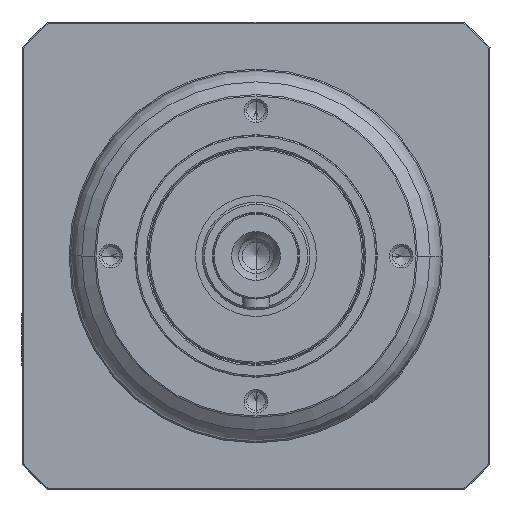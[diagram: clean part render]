
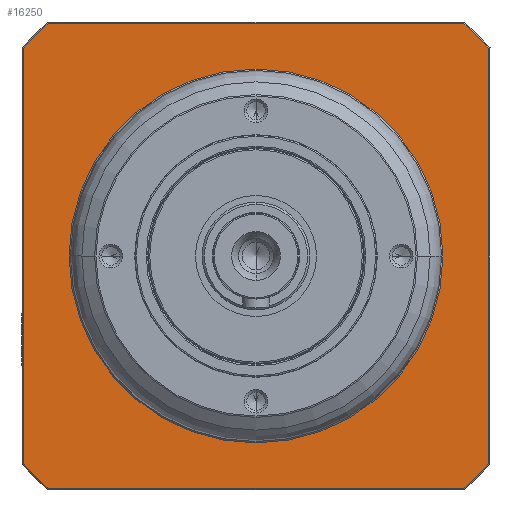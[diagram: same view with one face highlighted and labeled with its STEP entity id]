
A CAD part, left-side view. The second image highlights one B-rep face of the part: STEP entity #16250.
In plain terms, the highlighted planar face has unit normal (-1, 0, 0) as drawn and (0, 0, -1) by its records, which use the part's own axes.
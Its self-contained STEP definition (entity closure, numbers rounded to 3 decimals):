
#15136=CARTESIAN_POINT('',(0.,0.,
2.5));
#15137=DIRECTION('',(0.,0.,-1.));
#15138=DIRECTION('',(0.,-1.,0.));
#15139=AXIS2_PLACEMENT_3D('',#15136,#15137,#15138);
#15141=CARTESIAN_POINT('',(0.,0.,
2.5));
#15142=DIRECTION('',(0.,0.,-1.));
#15143=DIRECTION('',(0.,1.,0.));
#15144=AXIS2_PLACEMENT_3D('',#15141,#15142,#15143);
#15146=CARTESIAN_POINT('',(0.,0.,2.5));
#15147=DIRECTION('',(0.,0.,1.));
#15148=DIRECTION('',(-0.746,-0.666,0.));
#15149=AXIS2_PLACEMENT_3D('',#15146,#15147,#15148);
#15151=DIRECTION('',(1.,0.,0.));
#15152=VECTOR('',#15151,154.58);
#15153=CARTESIAN_POINT('',(-77.29,-86.5,
2.5));
#15154=LINE('',#15153,#15152);
#15155=CARTESIAN_POINT('',(0.,0.,2.5));
#15156=DIRECTION('',(0.,0.,1.));
#15157=DIRECTION('',(0.666,-0.746,0.));
#15158=AXIS2_PLACEMENT_3D('',#15155,#15156,#15157);
#15160=DIRECTION('',(0.,1.,0.));
#15161=VECTOR('',#15160,154.58);
#15162=CARTESIAN_POINT('',(86.5,-77.29,
2.5));
#15163=LINE('',#15162,#15161);
#15164=CARTESIAN_POINT('',(0.,0.,2.5));
#15165=DIRECTION('',(0.,0.,1.));
#15166=DIRECTION('',(0.746,0.666,0.));
#15167=AXIS2_PLACEMENT_3D('',#15164,#15165,#15166);
#15169=DIRECTION('',(-1.,0.,0.));
#15170=VECTOR('',#15169,154.58);
#15171=CARTESIAN_POINT('',(77.29,86.5,2.5));
#15172=LINE('',#15171,#15170);
#15173=CARTESIAN_POINT('',(0.,0.,2.5));
#15174=DIRECTION('',(0.,0.,1.));
#15175=DIRECTION('',(-0.666,0.746,0.));
#15176=AXIS2_PLACEMENT_3D('',#15173,#15174,#15175);
#15178=DIRECTION('',(0.,-1.,0.));
#15179=VECTOR('',#15178,154.58);
#15180=CARTESIAN_POINT('',(-86.5,77.29,
2.5));
#15181=LINE('',#15180,#15179);
#15899=CARTESIAN_POINT('',(0.,-69.5,2.5));
#15900=CARTESIAN_POINT('',(0.,69.5,
2.5));
#15901=VERTEX_POINT('',#15899);
#15902=VERTEX_POINT('',#15900);
#16003=CARTESIAN_POINT('',(-86.5,-77.29,2.5));
#16004=CARTESIAN_POINT('',(-77.29,-86.5,2.5));
#16005=VERTEX_POINT('',#16003);
#16006=VERTEX_POINT('',#16004);
#16011=CARTESIAN_POINT('',(77.29,-86.5,
2.5));
#16012=VERTEX_POINT('',#16011);
#16015=CARTESIAN_POINT('',(86.5,-77.29,2.5));
#16016=VERTEX_POINT('',#16015);
#16019=CARTESIAN_POINT('',(86.5,77.29,2.5));
#16020=VERTEX_POINT('',#16019);
#16023=CARTESIAN_POINT('',(77.29,86.5,2.5));
#16024=VERTEX_POINT('',#16023);
#16027=CARTESIAN_POINT('',(-77.29,86.5,
2.5));
#16028=VERTEX_POINT('',#16027);
#16033=CARTESIAN_POINT('',(-86.5,77.29,2.5));
#16034=VERTEX_POINT('',#16033);
#16222=CARTESIAN_POINT('',(0.,0.,2.5));
#16223=DIRECTION('',(0.,0.,1.));
#16224=DIRECTION('',(0.,1.,0.));
#16225=AXIS2_PLACEMENT_3D('',#16222,#16223,#16224);
#16226=PLANE('',#16225);
#16228=ORIENTED_EDGE('',*,*,#16227,.T.);
#16230=ORIENTED_EDGE('',*,*,#16229,.T.);
#16232=ORIENTED_EDGE('',*,*,#16231,.T.);
#16234=ORIENTED_EDGE('',*,*,#16233,.T.);
#16236=ORIENTED_EDGE('',*,*,#16235,.T.);
#16238=ORIENTED_EDGE('',*,*,#16237,.T.);
#16240=ORIENTED_EDGE('',*,*,#16239,.T.);
#16242=ORIENTED_EDGE('',*,*,#16241,.T.);
#16243=EDGE_LOOP('',(#16228,#16230,#16232,#16234,#16236,#16238,#16240,#16242));
#16244=FACE_OUTER_BOUND('',#16243,.F.);
#16246=ORIENTED_EDGE('',*,*,#16245,.T.);
#16247=ORIENTED_EDGE('',*,*,#16212,.T.);
#16248=EDGE_LOOP('',(#16246,#16247));
#16249=FACE_BOUND('',#16248,.F.);
#16250=ADVANCED_FACE('',(#16244,#16249),#16226,.F.);
#15140=CIRCLE('',#15139,69.5);
#15145=CIRCLE('',#15144,69.5);
#15150=CIRCLE('',#15149,116.);
#15159=CIRCLE('',#15158,116.);
#15168=CIRCLE('',#15167,116.);
#15177=CIRCLE('',#15176,116.);
#16212=EDGE_CURVE('',#15902,#15901,#15145,.T.);
#16227=EDGE_CURVE('',#16005,#16006,#15150,.T.);
#16229=EDGE_CURVE('',#16006,#16012,#15154,.T.);
#16231=EDGE_CURVE('',#16012,#16016,#15159,.T.);
#16233=EDGE_CURVE('',#16016,#16020,#15163,.T.);
#16235=EDGE_CURVE('',#16020,#16024,#15168,.T.);
#16237=EDGE_CURVE('',#16024,#16028,#15172,.T.);
#16239=EDGE_CURVE('',#16028,#16034,#15177,.T.);
#16241=EDGE_CURVE('',#16034,#16005,#15181,.T.);
#16245=EDGE_CURVE('',#15901,#15902,#15140,.T.);
